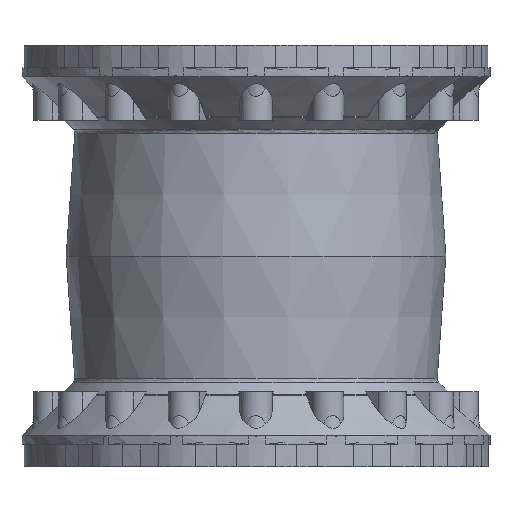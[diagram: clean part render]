
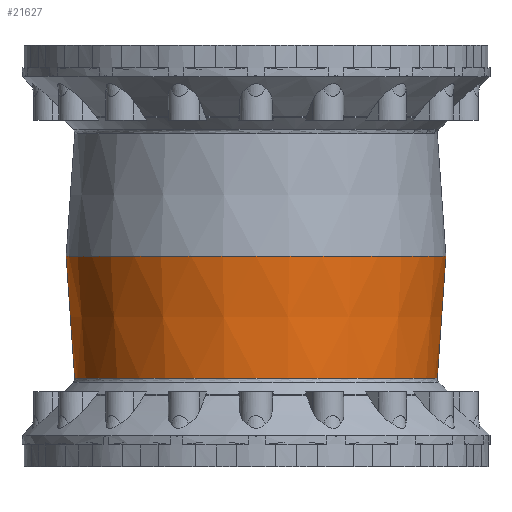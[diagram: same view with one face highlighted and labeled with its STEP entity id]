
A CAD part, front view. The second image highlights one B-rep face of the part: STEP entity #21627.
In plain terms, the highlighted conical face has half-angle 4 degrees and reference radius 348.118 mm.
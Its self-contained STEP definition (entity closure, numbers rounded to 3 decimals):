
#686 = DIRECTION ( 'NONE',  ( 1., 0., 0. ) ) ;
#688 = CARTESIAN_POINT ( 'NONE',  ( 0., 0., 0. ) ) ;
#689 = DIRECTION ( 'NONE',  ( 0., 0., 1. ) ) ;
#2739 = FACE_BOUND ( 'NONE', #3222, .T. ) ;
#2741 = FACE_OUTER_BOUND ( 'NONE', #3808, .T. ) ;
#2746 = CONICAL_SURFACE ( 'NONE', #19165, 348.118, 0.07 ) ;
#3222 = EDGE_LOOP ( 'NONE', ( #17319 ) ) ;
#3808 = EDGE_LOOP ( 'NONE', ( #17318 ) ) ;
#4898 = CIRCLE ( 'NONE', #18917, 337.003 ) ;
#4900 = CIRCLE ( 'NONE', #18918, 352.908 ) ;
#9071 = VERTEX_POINT ( 'NONE', #21228 ) ;
#9072 = VERTEX_POINT ( 'NONE', #21234 ) ;
#11915 = EDGE_CURVE ( 'NONE', #9071, #9071, #4898, .T. ) ;
#11916 = EDGE_CURVE ( 'NONE', #9072, #9072, #4900, .T. ) ;
#17318 = ORIENTED_EDGE ( 'NONE', *, *, #11916, .F. ) ;
#17319 = ORIENTED_EDGE ( 'NONE', *, *, #11915, .T. ) ;
#18917 = AXIS2_PLACEMENT_3D ( 'NONE', #19721, #19722, #19723 ) ;
#18918 = AXIS2_PLACEMENT_3D ( 'NONE', #19725, #19726, #19727 ) ;
#19165 = AXIS2_PLACEMENT_3D ( 'NONE', #688, #689, #686 ) ;
#19721 = CARTESIAN_POINT ( 'NONE',  ( 0., 0., -158.962 ) ) ;
#19722 = DIRECTION ( 'NONE',  ( 0., 0., 1. ) ) ;
#19723 = DIRECTION ( 'NONE',  ( 1., 0., 0. ) ) ;
#19725 = CARTESIAN_POINT ( 'NONE',  ( 0., 0., 68.5 ) ) ;
#19726 = DIRECTION ( 'NONE',  ( 0., 0., 1. ) ) ;
#19727 = DIRECTION ( 'NONE',  ( 1., 0., 0. ) ) ;
#21228 = CARTESIAN_POINT ( 'NONE',  ( 337.003, 0., -158.962 ) ) ;
#21234 = CARTESIAN_POINT ( 'NONE',  ( 352.908, 0., 68.5 ) ) ;
#21627 = ADVANCED_FACE ( 'NONE', ( #2741, #2739 ), #2746, .T. ) ;
